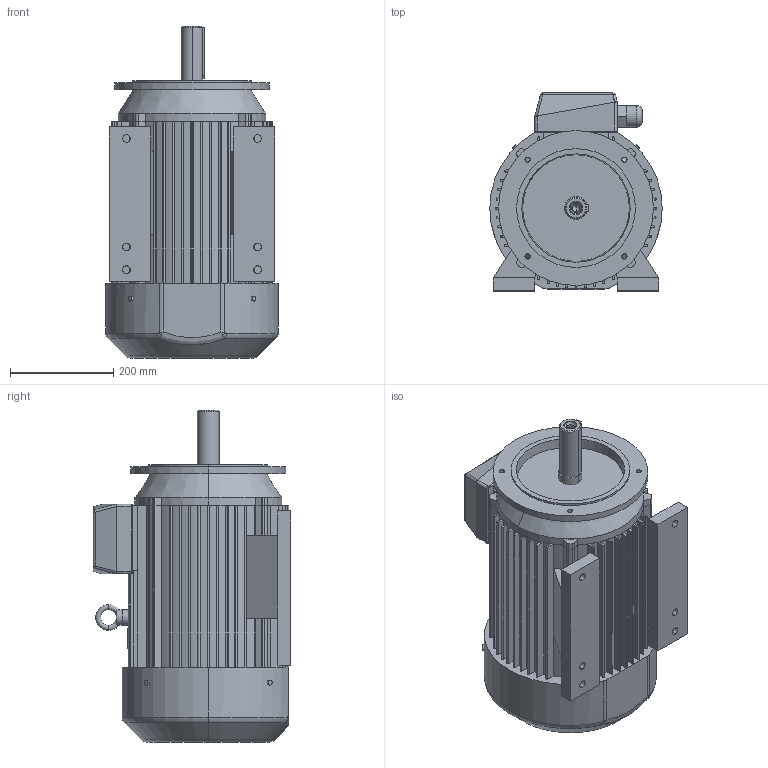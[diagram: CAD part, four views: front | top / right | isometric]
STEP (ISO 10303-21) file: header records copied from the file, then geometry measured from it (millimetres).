
FILE_DESCRIPTION (( 'STEP AP203' ), '1' );
FILE_NAME ('3SIEL160M-B34-C1.STEP', '2014-10-01T07:00:57', ( '' ), ( '' ), 'SwSTEP 2.0', 'SolidWorks 2003064', '' );
FILE_SCHEMA (( 'CONFIG_CONTROL_DESIGN' ));
Length unit declared in the file: millimetre
Products named in the file (1): 3SIEL160M-B34-C1
Bounding box: 334 x 383 x 643 mm (x, y, z)
Volume: 40750964.7 mm3; surface area: 1560802.5 mm2
Topology: 16 solids, 16 shells, 426 faces, 1103 edges, 705 vertices
Faces by surface type: cylinder 193, plane 191, torus 17, cone 16, bspline 5, sphere 4
Entity records: 16127 total; most frequent: CARTESIAN_POINT 5395, DIRECTION 2319, ORIENTED_EDGE 2190, EDGE_CURVE 1095, AXIS2_PLACEMENT_3D 843, VERTEX_POINT 705, LINE 633, VECTOR 633
